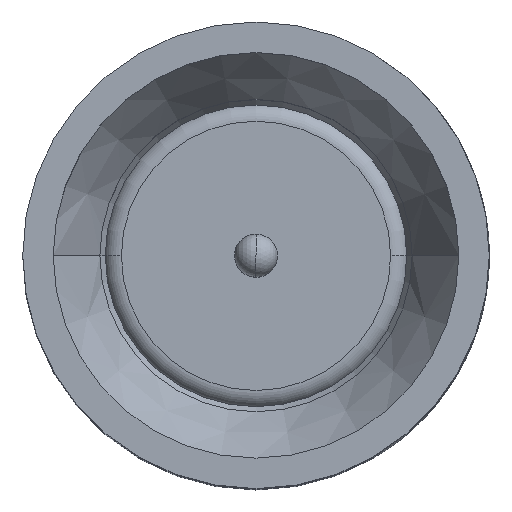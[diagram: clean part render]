
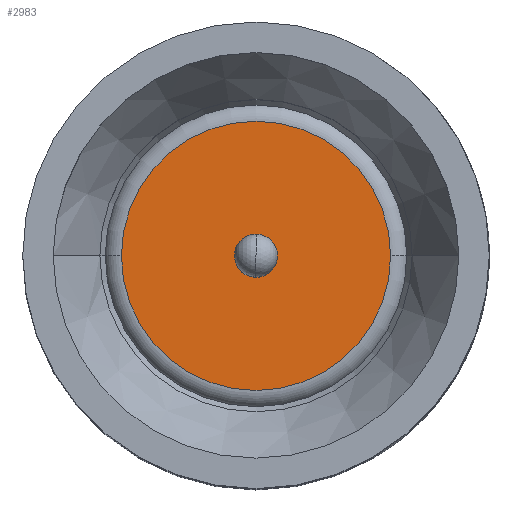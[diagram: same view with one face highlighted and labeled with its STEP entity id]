
A CAD part, top view. The second image highlights one B-rep face of the part: STEP entity #2983.
In plain terms, the highlighted planar face has unit normal (0, 0, 1).
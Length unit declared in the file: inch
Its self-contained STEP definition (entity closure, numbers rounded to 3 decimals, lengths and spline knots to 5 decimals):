
#142 = AXIS2_PLACEMENT_3D ( 'NONE', #18082, #1849, #17643 ) ;
#286 = EDGE_CURVE ( 'NONE', #17750, #1493, #15454, .T. ) ;
#674 = CARTESIAN_POINT ( 'NONE',  ( 0.006, -0.00011, -0.083 ) ) ;
#1493 = VERTEX_POINT ( 'NONE', #674 ) ;
#1555 = CARTESIAN_POINT ( 'NONE',  ( 0., 0., -0.083 ) ) ;
#1849 = DIRECTION ( 'NONE',  ( 0., 0., 1. ) ) ;
#1981 = AXIS2_PLACEMENT_3D ( 'NONE', #4197, #17437, #4287 ) ;
#2281 = ORIENTED_EDGE ( 'NONE', *, *, #4600, .T. ) ;
#2641 = AXIS2_PLACEMENT_3D ( 'NONE', #11657, #14353, #7064 ) ;
#2983 = ADVANCED_FACE ( 'NONE', ( #15019, #6384 ), #12137, .T. ) ;
#3195 = ORIENTED_EDGE ( 'NONE', *, *, #13419, .T. ) ;
#4197 = CARTESIAN_POINT ( 'NONE',  ( 0., 0., -0.083 ) ) ;
#4266 = DIRECTION ( 'NONE',  ( 1., 0., 0. ) ) ;
#4287 = DIRECTION ( 'NONE',  ( -1., 0., 0. ) ) ;
#4464 = DIRECTION ( 'NONE',  ( 0., 0., -1. ) ) ;
#4600 = EDGE_CURVE ( 'NONE', #12892, #8737, #7540, .T. ) ;
#5851 = DIRECTION ( 'NONE',  ( 1., 0., 0. ) ) ;
#6236 = CIRCLE ( 'NONE', #12656, 0.006 ) ;
#6384 = FACE_BOUND ( 'NONE', #13427, .T. ) ;
#6876 = EDGE_CURVE ( 'NONE', #8737, #12892, #8478, .T. ) ;
#7064 = DIRECTION ( 'NONE',  ( -1., 0., 0. ) ) ;
#7540 = CIRCLE ( 'NONE', #1981, 0.0375 ) ;
#8157 = CARTESIAN_POINT ( 'NONE',  ( 0.0375, 0., -0.083 ) ) ;
#8235 = EDGE_LOOP ( 'NONE', ( #16887, #2281 ) ) ;
#8478 = CIRCLE ( 'NONE', #2641, 0.0375 ) ;
#8737 = VERTEX_POINT ( 'NONE', #18293 ) ;
#9432 = ORIENTED_EDGE ( 'NONE', *, *, #286, .T. ) ;
#10070 = DIRECTION ( 'NONE',  ( 0., 0., -1. ) ) ;
#11657 = CARTESIAN_POINT ( 'NONE',  ( 0., 0., -0.083 ) ) ;
#11820 = CARTESIAN_POINT ( 'NONE',  ( -0.006, 0.00011, -0.083 ) ) ;
#12137 = PLANE ( 'NONE',  #142 ) ;
#12386 = AXIS2_PLACEMENT_3D ( 'NONE', #17352, #10070, #5851 ) ;
#12656 = AXIS2_PLACEMENT_3D ( 'NONE', #1555, #4464, #4266 ) ;
#12892 = VERTEX_POINT ( 'NONE', #8157 ) ;
#13419 = EDGE_CURVE ( 'NONE', #1493, #17750, #6236, .T. ) ;
#13427 = EDGE_LOOP ( 'NONE', ( #3195, #9432 ) ) ;
#14353 = DIRECTION ( 'NONE',  ( 0., 0., 1. ) ) ;
#15019 = FACE_OUTER_BOUND ( 'NONE', #8235, .T. ) ;
#15454 = CIRCLE ( 'NONE', #12386, 0.006 ) ;
#16887 = ORIENTED_EDGE ( 'NONE', *, *, #6876, .T. ) ;
#17352 = CARTESIAN_POINT ( 'NONE',  ( 0., 0., -0.083 ) ) ;
#17437 = DIRECTION ( 'NONE',  ( 0., 0., 1. ) ) ;
#17643 = DIRECTION ( 'NONE',  ( 1., 0., 0. ) ) ;
#17750 = VERTEX_POINT ( 'NONE', #11820 ) ;
#18082 = CARTESIAN_POINT ( 'NONE',  ( 0., 0., -0.083 ) ) ;
#18293 = CARTESIAN_POINT ( 'NONE',  ( -0.0375, 0., -0.083 ) ) ;
